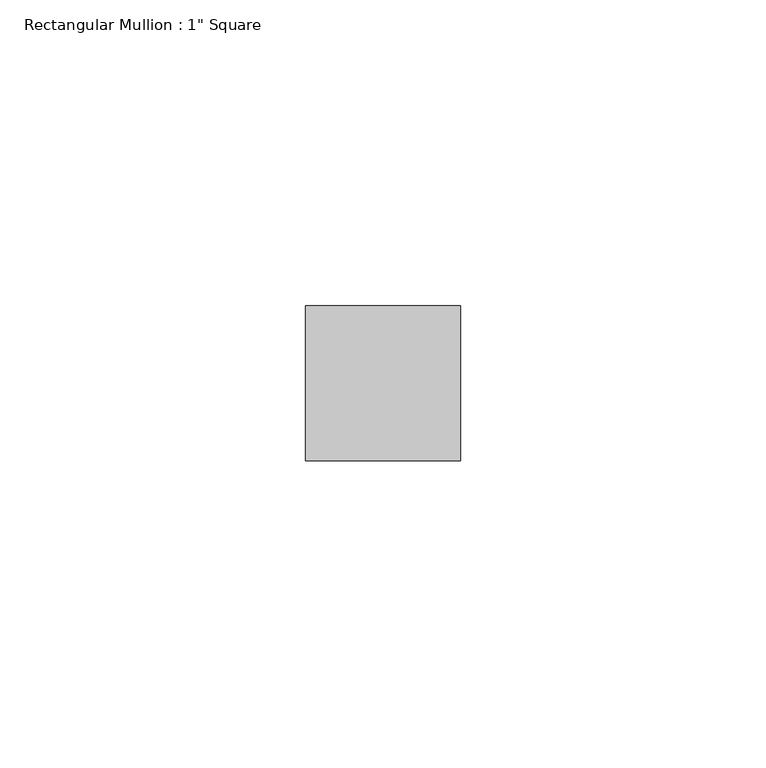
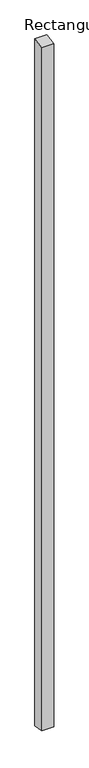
"""IFC4 building model written with IfcOpenShell, lengths in millimetres: member geometry."""

from ifc_helpers import new_model, si_unit, frame, origin, place, context, project, spatial, polyline, outline, extrude, source, transform, mapped, element, save


def member_262d8d0c(model_context):
    return source(origin(), model_context, "Body", "SweptSolid", [
        extrude(outline(polyline([(-12.7, -2.1466918), (12.7, 2.1466918), (12.7, -1525.8076902), (-12.7, -1522.1923098), (-12.7, -2.1466918)])), frame((-12.7, 0.0, 0.0), z_axis=(1.0, 0.0, 0.0), x_axis=(0.0, 1.0, 0.0)), (0.0, 0.0, 1.0), 25.4),
    ])


if __name__ == "__main__":
    model = new_model("IFC4")
    model_context = context("Model", 3, world=origin())
    ifc_project = project(units=[si_unit("LENGTHUNIT", "METRE", prefix="MILLI")], contexts=[model_context])
    site = spatial("IfcSite", under=ifc_project)
    building = spatial("IfcBuilding", under=site)
    placement = place(None, origin())
    member_shape = member_262d8d0c(model_context)
    element("IfcMember", 1, ObjectType="Rectangular Mullion : 1\" Square", at=placement, inside=building, context=model_context, shape_type="MappedRepresentation", body=[
        mapped(member_shape, transform((0.0, 0.0, 0.0), x_axis=(1.0, 0.0, 0.0), y_axis=(0.0, 1.0, 0.0), z_axis=(0.0, 0.0, 1.0))),
    ])
    save(model, "model.ifc")
